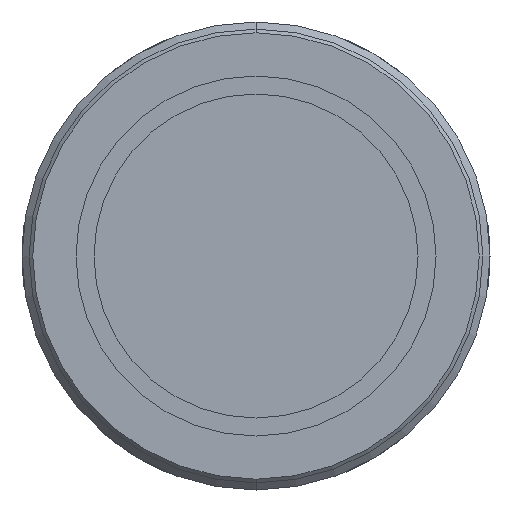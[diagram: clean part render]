
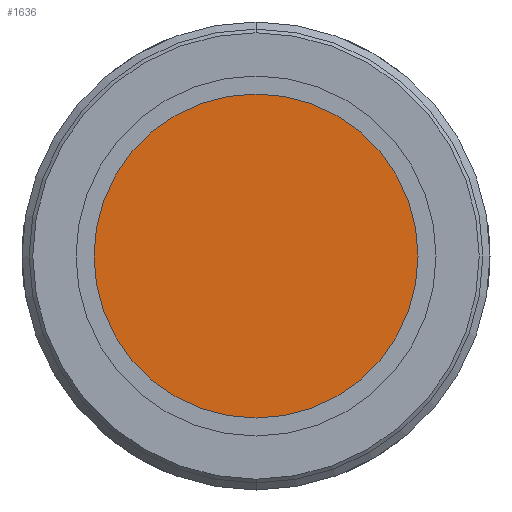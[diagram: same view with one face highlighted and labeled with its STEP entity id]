
A CAD part, front view. The second image highlights one B-rep face of the part: STEP entity #1636.
In plain terms, the highlighted planar face has unit normal (0, -1, 0).
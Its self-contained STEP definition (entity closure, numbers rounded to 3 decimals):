
#320 = ORIENTED_EDGE ( 'NONE', *, *, #1971, .T. ) ;
#1385 = CIRCLE ( 'NONE', #6291, 22.5 ) ;
#1636 = ADVANCED_FACE ( 'NONE', ( #5436 ), #4195, .F. ) ;
#1971 = EDGE_CURVE ( 'NONE', #5663, #8654, #1385, .T. ) ;
#1987 = AXIS2_PLACEMENT_3D ( 'NONE', #3248, #4310, #4353 ) ;
#2258 = CARTESIAN_POINT ( 'NONE',  ( 0., -77.399, -22.5 ) ) ;
#2283 = EDGE_CURVE ( 'NONE', #8654, #5663, #2369, .T. ) ;
#2369 = CIRCLE ( 'NONE', #3607, 22.5 ) ;
#3248 = CARTESIAN_POINT ( 'NONE',  ( -22.5, -77.399, 0. ) ) ;
#3607 = AXIS2_PLACEMENT_3D ( 'NONE', #4237, #10719, #5126 ) ;
#4195 = PLANE ( 'NONE',  #1987 ) ;
#4237 = CARTESIAN_POINT ( 'NONE',  ( 0., -77.399, 0. ) ) ;
#4310 = DIRECTION ( 'NONE',  ( 0., 1., 0. ) ) ;
#4353 = DIRECTION ( 'NONE',  ( 0., 0., 1. ) ) ;
#5126 = DIRECTION ( 'NONE',  ( 0., 0., -1. ) ) ;
#5436 = FACE_OUTER_BOUND ( 'NONE', #10619, .T. ) ;
#5455 = CARTESIAN_POINT ( 'NONE',  ( 0., -77.399, 0. ) ) ;
#5663 = VERTEX_POINT ( 'NONE', #2258 ) ;
#5674 = CARTESIAN_POINT ( 'NONE',  ( 0., -77.399, 22.5 ) ) ;
#6291 = AXIS2_PLACEMENT_3D ( 'NONE', #5455, #12033, #6402 ) ;
#6402 = DIRECTION ( 'NONE',  ( 0., 0., -1. ) ) ;
#6750 = ORIENTED_EDGE ( 'NONE', *, *, #2283, .T. ) ;
#8654 = VERTEX_POINT ( 'NONE', #5674 ) ;
#10619 = EDGE_LOOP ( 'NONE', ( #320, #6750 ) ) ;
#10719 = DIRECTION ( 'NONE',  ( 0., -1., 0. ) ) ;
#12033 = DIRECTION ( 'NONE',  ( 0., -1., 0. ) ) ;
